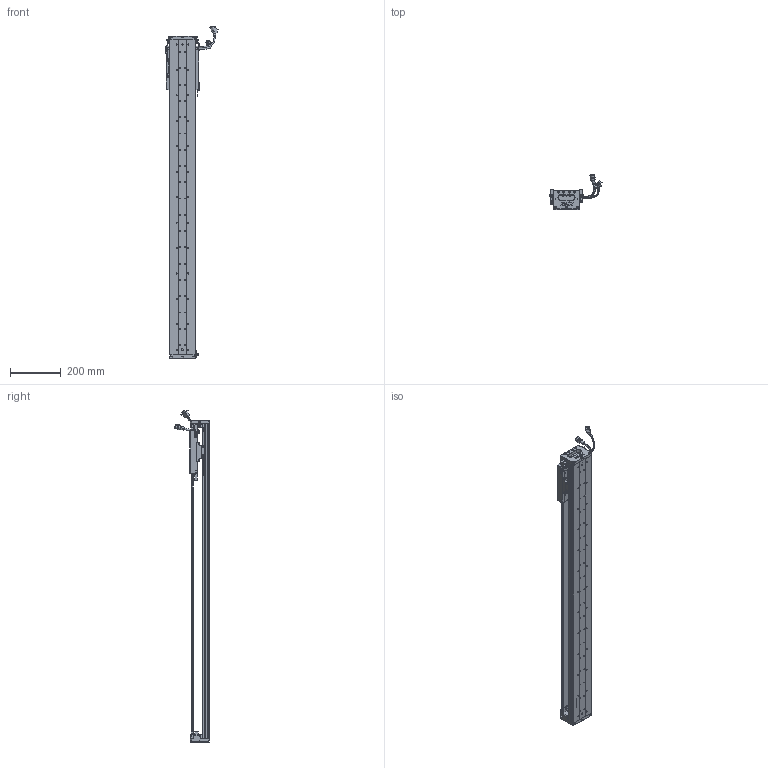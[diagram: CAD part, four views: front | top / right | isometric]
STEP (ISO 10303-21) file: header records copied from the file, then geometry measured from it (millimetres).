
FILE_DESCRIPTION (( 'STEP AP203' ), '1' );
FILE_NAME ('Z2-RY100D-1-L500-B-K.SLDASM_1000.step', '2021-05-17T02:35:50', ( '盈信电脑' ), ( '东莞市道滘镇水果街19号' ), 'SwSTEP 2.0', 'SolidWorks 2016', '' );
FILE_SCHEMA (( 'CONFIG_CONTROL_DESIGN' ));
Length unit declared in the file: millimetre
Products named in the file (36): 100-Z-臏賑輸盄裔(21遴); HARNESS; SCREW-M1.6; HARNESS-Part-2; 140蚥薯蝶輸; SHIELDPLATE; SCALE-Part-1; SCALE; SCALE-Part-2; PBU_SHEET; Z2-RY100D-500-倰第菁釱_1000; 140雄赽晤鎢ん堤盄; COVER-Part-1; HOLDER0; SEAL; Z2-RY100铝滑块（21款）; Z-RY100D詩湍奻揤裔; 榋妏寠巭燃_暯_M2_2; Z2-RY100D-1-L500-B-K.SLDASM_1000; 覜茼ん672; SEAL-Part-1; SCREW-M1.7-1; Z2-RY100-L500詩湍90mm遵_1000; Z-100詩湍傷裔啣; LABEL; SCREW-M1.6-1; PSLH080_PSLF2; 080黍杅芛假蚾釱21遴; SCREW-M1.7; COVER; SCREW-M1.6-2; LABEL-Part-1; Z-RY100D覜茼んえ; SCREW-M1.6-3; HARNESS-Part-1; Z-RY100D詩湍狟揤裔
Assembly tree (43 placements, depth 4):
  Z2-RY100D-1-L500-B-K.SLDASM_1000
    Z2-RY100D-500-倰第菁釱_1000
    Z2-RY100铝滑块（21款）
    PSLH080_PSLF2
      SCALE
        SCALE-Part-1
        SCALE-Part-2
      HARNESS
        HARNESS-Part-1
        HARNESS-Part-2
      LABEL
        LABEL-Part-1
      COVER
        COVER-Part-1
      SEAL
        SEAL-Part-1
      榋妏寠巭燃_暯_M2_2
      SHIELDPLATE
      SCREW-M1.7
      SCREW-M1.7-1
      PBU_SHEET
      SCREW-M1.6
      SCREW-M1.6-1
      SCREW-M1.6-2
      SCREW-M1.6-3
      HOLDER0
    080黍杅芛假蚾釱21遴
    Z-100詩湍傷裔啣  x2
    140蚥薯蝶輸  x2
    覜茼ん672  x3
    Z-RY100D覜茼んえ  x3
    100-Z-臏賑輸盄裔(21遴)
    140雄赽晤鎢ん堤盄
    Z2-RY100-L500詩湍90mm遵_1000
    Z-RY100D詩湍狟揤裔  x2
    Z-RY100D詩湍奻揤裔  x2
Bounding box: 205.84 x 136.11 x 1305.43 mm (x, y, z)
Volume: 2608433 mm3; surface area: 1016125.7 mm2
Topology: 38 solids, 38 shells, 2624 faces, 6933 edges, 4396 vertices
Faces by surface type: cylinder 1154, plane 1130, cone 218, torus 69, bspline 53
Entity records: 72017 total; most frequent: CARTESIAN_POINT 15200, DIRECTION 11413, ORIENTED_EDGE 10762, EDGE_CURVE 5381, AXIS2_PLACEMENT_3D 4205, VERTEX_POINT 3464, VECTOR 3003, LINE 3003
